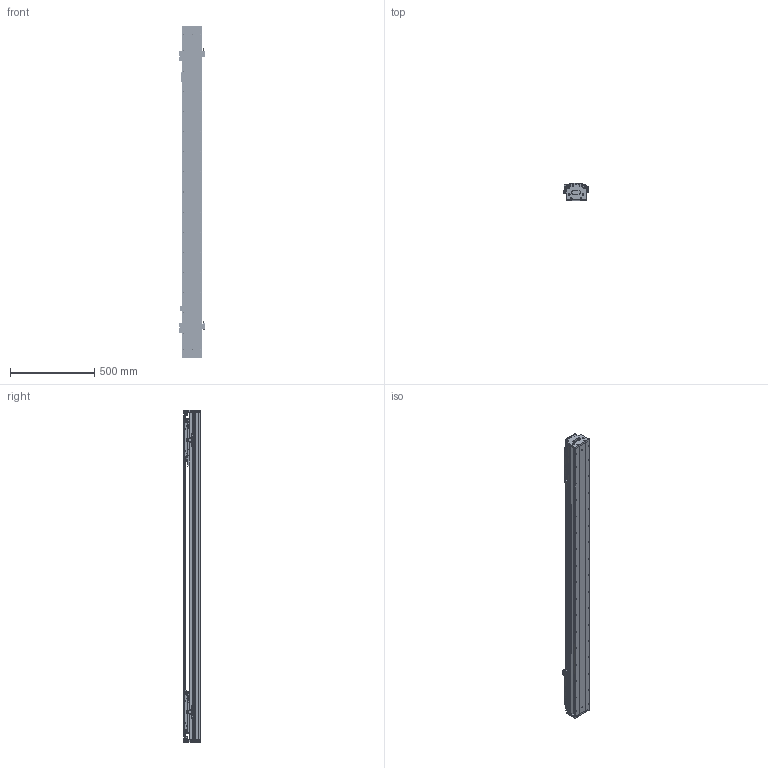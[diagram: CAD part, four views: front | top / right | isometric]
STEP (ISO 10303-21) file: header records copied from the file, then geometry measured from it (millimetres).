
FILE_DESCRIPTION (( 'STEP AP203' ), '1' );
FILE_NAME ('DKW119-C3-W060(T1340-L005-0.2).STEP', '2021-09-17T09:14:12', ( '微软用户' ), ( '微软中国' ), 'SwSTEP 2.0', 'SolidWorks 2018', '' );
FILE_SCHEMA (( 'CONFIG_CONTROL_DESIGN' ));
Length unit declared in the file: millimetre
Products named in the file (26): EE_SX674A; 嫖萇羲壽蚾饜极A; 12018-0001-002-00 詩湍; 12018-0001-001-00 菁釱; DKW119-C3-W060(T1340-L005-0.2); DKW-SG-GYP-H-00 嫖萇覜茼え; 砎蝶猾沭; MSB15-DG-U; RUS嫖掑喜; 12160-0000-003-00 DKW120詩湍嶺輸; DKW119-RU-DTJ-00 RU2黍杅芛盓殤; Ru2; 12160-0000-004-00  DKW120詩湍揤輸; 萇儂堤盄 ^DKW119-C3-W060(T1340-L005-0.2); CKM03-W060_00; DKW119 单轴模组-拉钢带组件; CKMA01-W060-TRLxxx; DKW-DG-XJ-Z-00 笢潔滅袉砎蝶; pm-y65; DKW-HXJ-JY-00 遣喳砎蝶; DKW-GYP-ZJ-00 笢潔嫖萇覜茼え; 10980-0001-003-00 嫖萇羲壽嘐隅釱; 11062-0001-004-00 DKW119傷啣; DKW-KGZ-ZJ-00 中间光电开关支架; 嫖萇羲壽蚾饜极; 06652-0001-004-00 DKW120嶺輸菜輸
Assembly tree (45 placements, depth 3):
  DKW119-C3-W060(T1340-L005-0.2)
    12018-0001-001-00 菁釱
    MSB15-DG-U  x2
    DKW119-RU-DTJ-00 RU2黍杅芛盓殤  x2
    萇儂堤盄 ^DKW119-C3-W060(T1340-L005-0.2)  x2
    CKMA01-W060-TRLxxx
    DKW119 单轴模组-拉钢带组件
      DKW-HXJ-JY-00 遣喳砎蝶  x4
      11062-0001-004-00 DKW119傷啣  x2
      06652-0001-004-00 DKW120嶺輸菜輸  x4
      12018-0001-002-00 詩湍
      砎蝶猾沭  x2
      12160-0000-003-00 DKW120詩湍嶺輸  x2
      12160-0000-004-00  DKW120詩湍揤輸  x2
    嫖萇羲壽蚾饜极
      pm-y65  x2
      10980-0001-003-00 嫖萇羲壽嘐隅釱
    嫖萇羲壽蚾饜极A
      pm-y65  x2
      10980-0001-003-00 嫖萇羲壽嘐隅釱
    DKW-SG-GYP-H-00 嫖萇覜茼え  x2
    RUS嫖掑喜
    Ru2  x2
    CKM03-W060_00  x2
    DKW-DG-XJ-Z-00 笢潔滅袉砎蝶
    DKW-GYP-ZJ-00 笢潔嫖萇覜茼え
    DKW-KGZ-ZJ-00 中间光电开关支架
    EE_SX674A
Bounding box: 154.3 x 99 x 1976 mm (x, y, z)
Volume: 9782042.4 mm3; surface area: 3031630.5 mm2
Topology: 62 solids, 160 shells, 6577 faces, 17462 edges, 11178 vertices
Faces by surface type: plane 3508, cylinder 2025, cone 550, bspline 494
Entity records: 134976 total; most frequent: CARTESIAN_POINT 44303, ORIENTED_EDGE 18171, DIRECTION 17560, EDGE_CURVE 9126, VERTEX_POINT 5982, AXIS2_PLACEMENT_3D 5940, LINE 5680, VECTOR 5680
